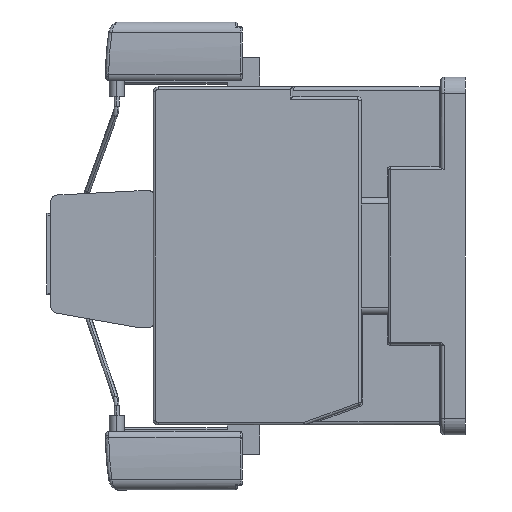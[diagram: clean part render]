
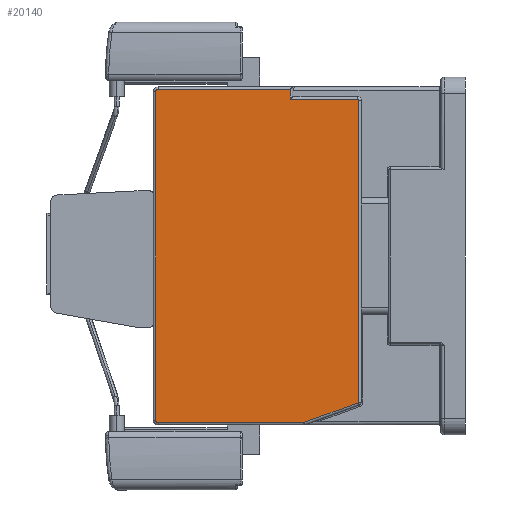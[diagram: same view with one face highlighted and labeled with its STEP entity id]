
A CAD part, left-side view. The second image highlights one B-rep face of the part: STEP entity #20140.
In plain terms, the highlighted planar face has unit normal (-1, 0, 0).
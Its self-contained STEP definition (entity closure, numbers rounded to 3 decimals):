
#129 = EDGE_CURVE ( 'NONE', #6843, #9309, #15481, .T. ) ;
#356 = CARTESIAN_POINT ( 'NONE',  ( -29.9, -63., 48. ) ) ;
#452 = ORIENTED_EDGE ( 'NONE', *, *, #10793, .T. ) ;
#707 = AXIS2_PLACEMENT_3D ( 'NONE', #3889, #16012, #5601 ) ;
#1153 = EDGE_CURVE ( 'NONE', #10836, #2044, #1600, .T. ) ;
#1591 = CARTESIAN_POINT ( 'NONE',  ( -29.9, -42.25, 51.25 ) ) ;
#1600 = LINE ( 'NONE', #8761, #10275 ) ;
#1754 = VECTOR ( 'NONE', #15556, 1000. ) ;
#2044 = VERTEX_POINT ( 'NONE', #1591 ) ;
#2111 = DIRECTION ( 'NONE',  ( 0., 0., 1. ) ) ;
#2209 = VECTOR ( 'NONE', #14076, 1000. ) ;
#2645 = VECTOR ( 'NONE', #3188, 1000. ) ;
#3188 = DIRECTION ( 'NONE',  ( 0., 1., 0. ) ) ;
#3865 = DIRECTION ( 'NONE',  ( 0., -0.94, 0.342 ) ) ;
#3889 = CARTESIAN_POINT ( 'NONE',  ( -29.9, -63., -44.93 ) ) ;
#4006 = EDGE_CURVE ( 'NONE', #11478, #14183, #4663, .T. ) ;
#4327 = EDGE_CURVE ( 'NONE', #14183, #21835, #7922, .T. ) ;
#4574 = DIRECTION ( 'NONE',  ( 0., 1., 0. ) ) ;
#4663 = LINE ( 'NONE', #6221, #17986 ) ;
#4930 = EDGE_CURVE ( 'NONE', #12617, #6843, #6812, .T. ) ;
#5085 = ORIENTED_EDGE ( 'NONE', *, *, #4930, .T. ) ;
#5128 = FACE_OUTER_BOUND ( 'NONE', #20358, .T. ) ;
#5193 = AXIS2_PLACEMENT_3D ( 'NONE', #356, #14236, #14387 ) ;
#5601 = DIRECTION ( 'NONE',  ( 0., 0., 1. ) ) ;
#5637 = VERTEX_POINT ( 'NONE', #19265 ) ;
#5986 = CIRCLE ( 'NONE', #707, 0.25 ) ;
#6150 = VECTOR ( 'NONE', #4574, 1000. ) ;
#6221 = CARTESIAN_POINT ( 'NONE',  ( -29.9, -63.25, -55. ) ) ;
#6330 = LINE ( 'NONE', #8592, #1754 ) ;
#6444 = ORIENTED_EDGE ( 'NONE', *, *, #10799, .T. ) ;
#6812 = LINE ( 'NONE', #20188, #2209 ) ;
#6843 = VERTEX_POINT ( 'NONE', #18202 ) ;
#7291 = CARTESIAN_POINT ( 'NONE',  ( -29.9, -1.5, -50.5 ) ) ;
#7390 = ORIENTED_EDGE ( 'NONE', *, *, #9079, .T. ) ;
#7922 = CIRCLE ( 'NONE', #5193, 0.25 ) ;
#7946 = VERTEX_POINT ( 'NONE', #21145 ) ;
#8291 = AXIS2_PLACEMENT_3D ( 'NONE', #19359, #8979, #21081 ) ;
#8592 = CARTESIAN_POINT ( 'NONE',  ( -29.9, -0.75, -55. ) ) ;
#8671 = ORIENTED_EDGE ( 'NONE', *, *, #13759, .T. ) ;
#8761 = CARTESIAN_POINT ( 'NONE',  ( -29.9, -42.25, 52. ) ) ;
#8979 = DIRECTION ( 'NONE',  ( -1., 0., 0. ) ) ;
#9061 = PLANE ( 'NONE',  #11914 ) ;
#9077 = DIRECTION ( 'NONE',  ( 0., 0., 1. ) ) ;
#9079 = EDGE_CURVE ( 'NONE', #5637, #7946, #6330, .T. ) ;
#9114 = CARTESIAN_POINT ( 'NONE',  ( -29.9, -1.5, -51.25 ) ) ;
#9268 = CARTESIAN_POINT ( 'NONE',  ( -29.9, -63.25, -44.93 ) ) ;
#9309 = VERTEX_POINT ( 'NONE', #13195 ) ;
#10063 = CIRCLE ( 'NONE', #8291, 0.75 ) ;
#10071 = CIRCLE ( 'NONE', #20897, 0.75 ) ;
#10275 = VECTOR ( 'NONE', #19884, 1000. ) ;
#10328 = VERTEX_POINT ( 'NONE', #19648 ) ;
#10768 = LINE ( 'NONE', #11469, #6150 ) ;
#10793 = EDGE_CURVE ( 'NONE', #7946, #12617, #10071, .T. ) ;
#10799 = EDGE_CURVE ( 'NONE', #9309, #11478, #5986, .T. ) ;
#10836 = VERTEX_POINT ( 'NONE', #12568 ) ;
#10855 = VECTOR ( 'NONE', #3865, 1000. ) ;
#11469 = CARTESIAN_POINT ( 'NONE',  ( -29.9, -1.5, 51.25 ) ) ;
#11478 = VERTEX_POINT ( 'NONE', #9268 ) ;
#11493 = ORIENTED_EDGE ( 'NONE', *, *, #12891, .T. ) ;
#11840 = LINE ( 'NONE', #13579, #2645 ) ;
#11914 = AXIS2_PLACEMENT_3D ( 'NONE', #21164, #12490, #2111 ) ;
#12205 = CARTESIAN_POINT ( 'NONE',  ( -29.9, -88.989, -35.737 ) ) ;
#12490 = DIRECTION ( 'NONE',  ( -1., 0., 0. ) ) ;
#12568 = CARTESIAN_POINT ( 'NONE',  ( -29.9, -42.25, 48.25 ) ) ;
#12617 = VERTEX_POINT ( 'NONE', #9114 ) ;
#12680 = ORIENTED_EDGE ( 'NONE', *, *, #129, .T. ) ;
#12891 = EDGE_CURVE ( 'NONE', #2044, #10328, #10768, .T. ) ;
#13195 = CARTESIAN_POINT ( 'NONE',  ( -29.9, -63.086, -45.165 ) ) ;
#13579 = CARTESIAN_POINT ( 'NONE',  ( -29.9, -96., 48.25 ) ) ;
#13759 = EDGE_CURVE ( 'NONE', #21835, #10836, #11840, .T. ) ;
#14076 = DIRECTION ( 'NONE',  ( 0., -1., 0. ) ) ;
#14183 = VERTEX_POINT ( 'NONE', #21690 ) ;
#14236 = DIRECTION ( 'NONE',  ( -1., 0., 0. ) ) ;
#14387 = DIRECTION ( 'NONE',  ( 0., 0., 1. ) ) ;
#14890 = ORIENTED_EDGE ( 'NONE', *, *, #1153, .T. ) ;
#15481 = LINE ( 'NONE', #12205, #10855 ) ;
#15531 = ORIENTED_EDGE ( 'NONE', *, *, #19360, .T. ) ;
#15556 = DIRECTION ( 'NONE',  ( 0., 0., -1. ) ) ;
#16012 = DIRECTION ( 'NONE',  ( -1., 0., 0. ) ) ;
#16309 = ORIENTED_EDGE ( 'NONE', *, *, #4327, .T. ) ;
#16558 = DIRECTION ( 'NONE',  ( 0., 0., 1. ) ) ;
#17435 = ORIENTED_EDGE ( 'NONE', *, *, #4006, .T. ) ;
#17986 = VECTOR ( 'NONE', #16558, 1000. ) ;
#18041 = CARTESIAN_POINT ( 'NONE',  ( -29.9, -63., 48.25 ) ) ;
#18202 = CARTESIAN_POINT ( 'NONE',  ( -29.9, -46.368, -51.25 ) ) ;
#19265 = CARTESIAN_POINT ( 'NONE',  ( -29.9, -0.75, 50.5 ) ) ;
#19359 = CARTESIAN_POINT ( 'NONE',  ( -29.9, -1.5, 50.5 ) ) ;
#19360 = EDGE_CURVE ( 'NONE', #10328, #5637, #10063, .T. ) ;
#19445 = DIRECTION ( 'NONE',  ( -1., 0., 0. ) ) ;
#19648 = CARTESIAN_POINT ( 'NONE',  ( -29.9, -1.5, 51.25 ) ) ;
#19884 = DIRECTION ( 'NONE',  ( 0., 0., 1. ) ) ;
#20140 = ADVANCED_FACE ( 'NONE', ( #5128 ), #9061, .T. ) ;
#20188 = CARTESIAN_POINT ( 'NONE',  ( -29.9, -46.5, -51.25 ) ) ;
#20358 = EDGE_LOOP ( 'NONE', ( #8671, #14890, #11493, #15531, #7390, #452, #5085, #12680, #6444, #17435, #16309 ) ) ;
#20897 = AXIS2_PLACEMENT_3D ( 'NONE', #7291, #19445, #9077 ) ;
#21081 = DIRECTION ( 'NONE',  ( 0., 0., 1. ) ) ;
#21145 = CARTESIAN_POINT ( 'NONE',  ( -29.9, -0.75, -50.5 ) ) ;
#21164 = CARTESIAN_POINT ( 'NONE',  ( -29.9, -96., -55. ) ) ;
#21690 = CARTESIAN_POINT ( 'NONE',  ( -29.9, -63.25, 48. ) ) ;
#21835 = VERTEX_POINT ( 'NONE', #18041 ) ;
